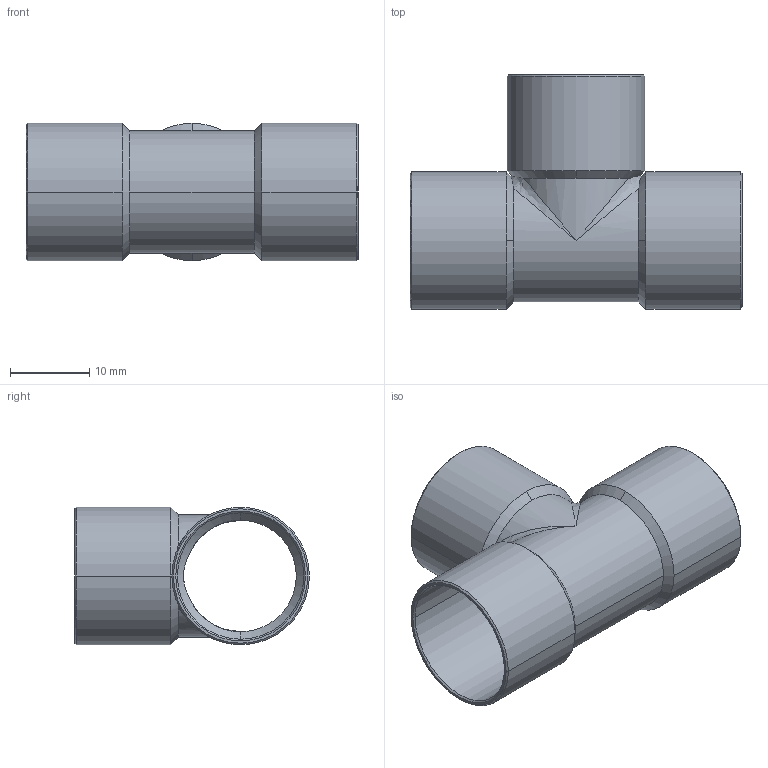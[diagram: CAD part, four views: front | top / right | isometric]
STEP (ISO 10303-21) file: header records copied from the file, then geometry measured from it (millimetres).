
FILE_DESCRIPTION((''),'2;1');
FILE_NAME('P:\Bouwmaten\z-maattekeningen 3D\5000\5130\d\513016.stp','2005-10-19T08:44:03',('Kris'),(''),'Autodesk Inventor 8','Autodesk Inventor 8','');
FILE_SCHEMA(('AUTOMOTIVE_DESIGN { 1 0 10303 214 1 1 1 1 }'));
Length unit declared in the file: millimetre
Products named in the file (1): 513016
Bounding box: 42 x 29.7 x 17.4 mm (x, y, z)
Volume: 1923.9 mm3; surface area: 5586.4 mm2
Topology: 1 solids, 1 shells, 51 faces, 142 edges, 84 vertices
Faces by surface type: cone 24, cylinder 20, bspline 4, plane 3
Entity records: 2103 total; most frequent: CARTESIAN_POINT 762, DIRECTION 310, ORIENTED_EDGE 268, AXIS2_PLACEMENT_3D 136, EDGE_CURVE 134, VERTEX_POINT 84, CIRCLE 72, EDGE_LOOP 54
